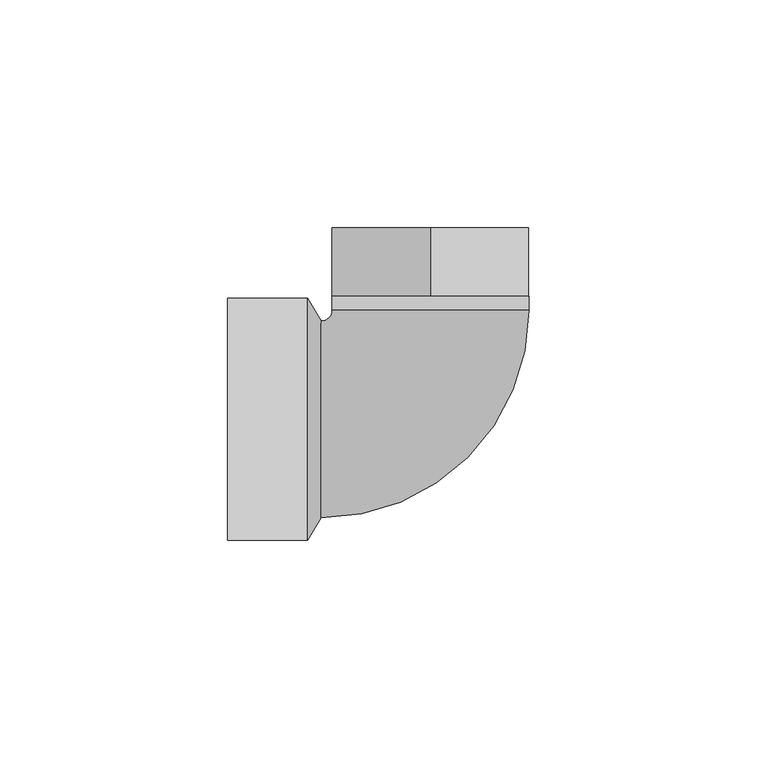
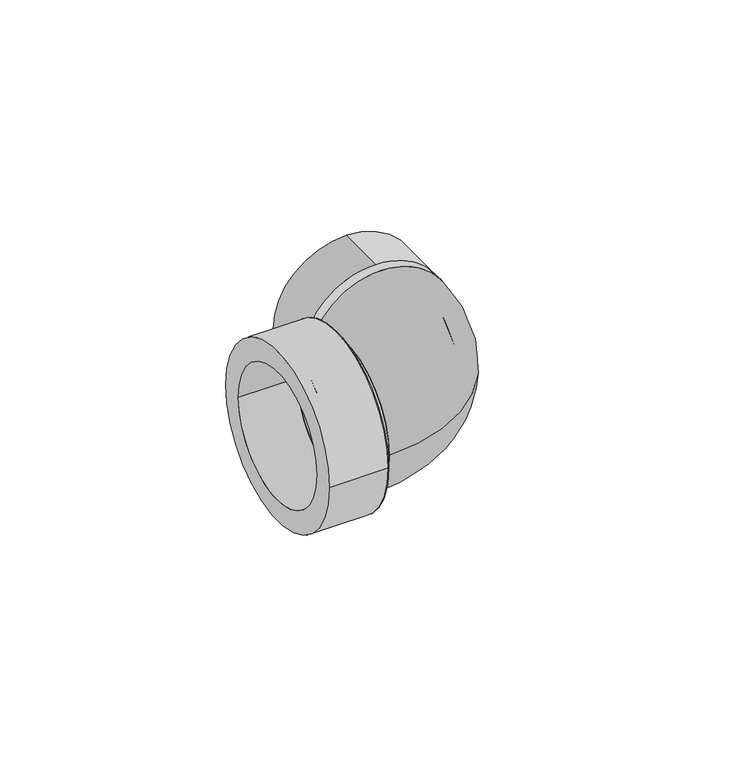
"""IFC4 building model written with IfcOpenShell, lengths in millimetres: pipe fitting geometry, 40_Угольник переходной 90 : Белый цвет."""

import ifcopenshell
import ifcopenshell.guid

model = None  # the IFC model being written
_history = None  # IfcOwnerHistory: only IFC2X3 demands one
_inside = {}  # id of a spatial element -> (the spatial element, [elements in it])
_under = {}  # id of a project, library or spatial element -> (it, [spatial elements below it])
_declared = {}  # id of a project -> (the project, [libraries it declares])
_typed = {}  # id of a type object -> (the type object, [elements of that type])
_made_of = {}  # id of a material, layer set ... -> (it, [elements and type objects made of it])


def new_model(schema):
    """Start an empty IFC model of exactly this schema.

    Asked for "IFC4X3", IfcOpenShell would pick the latest addendum, in which some entities
    have other attributes; the version numbers below select the first issue.
    IFC2X3 requires an IfcOwnerHistory on every rooted entity: one is made here for all.
    """
    global model, _history
    if schema == "IFC4X3":
        model = ifcopenshell.file(schema_version=(4, 3, 0, 0))
    else:
        model = ifcopenshell.file(schema=schema)
    _inside.clear()
    _under.clear()
    _declared.clear()
    _typed.clear()
    _made_of.clear()
    _history = None
    if model.schema == "IFC2X3":
        org = make("IfcOrganization", Name="unknown")
        user = make(
            "IfcPersonAndOrganization",
            ThePerson=make("IfcPerson", FamilyName="unknown"),
            TheOrganization=org,
        )
        app = make(
            "IfcApplication",
            ApplicationDeveloper=org,
            Version="unknown",
            ApplicationFullName="unknown",
            ApplicationIdentifier="unknown",
        )
        _history = make(
            "IfcOwnerHistory",
            OwningUser=user,
            OwningApplication=app,
            ChangeAction="ADDED",
            CreationDate=0,
        )
    return model


def make(cls, **values):
    """One entity of the class cls with the attributes given. An attribute that is None is left unset."""
    return model.create_entity(
        cls, **{name: value for name, value in values.items() if value is not None}
    )


def rooted(cls, **values):
    """An entity with a GlobalId (a new one), such as an element, a storey or a relation."""
    return make(cls, GlobalId=ifcopenshell.guid.new(), OwnerHistory=_history, **values)


def si_unit(unit_type, name, prefix=None):
    """IfcSIUnit, for example si_unit("LENGTHUNIT", "METRE", prefix="MILLI")."""
    return make("IfcSIUnit", UnitType=unit_type, Prefix=prefix, Name=name)


def assignment(units):
    """IfcUnitAssignment: the units of a project."""
    return None if units is None else make("IfcUnitAssignment", Units=units)


def point(xyz):
    """IfcCartesianPoint."""
    return None if xyz is None else make("IfcCartesianPoint", Coordinates=xyz)


def direction(xyz):
    """IfcDirection."""
    return None if xyz is None else make("IfcDirection", DirectionRatios=xyz)


def frame(location, z_axis=None, x_axis=None):
    """IfcAxis2Placement3D, a coordinate frame: its origin and axes. An axis left out is left unset."""
    return make(
        "IfcAxis2Placement3D",
        Location=point(location),
        Axis=direction(z_axis),
        RefDirection=direction(x_axis),
    )


def frame_2d(location, x_axis=None):
    """IfcAxis2Placement2D, a coordinate frame in the plane: its origin and x axis."""
    return make(
        "IfcAxis2Placement2D", Location=point(location), RefDirection=direction(x_axis)
    )


def origin():
    """The frame at (0, 0, 0) with its axes left unset."""
    return frame((0.0, 0.0, 0.0))


def place(relative_to, where):
    """IfcLocalPlacement: puts the frame where relative to a parent placement (None: the world)."""
    return make(
        "IfcLocalPlacement", PlacementRelTo=relative_to, RelativePlacement=where
    )


def context(
    kind, dimensions, precision=None, world=None, true_north=None, identifier=None
):
    """IfcGeometricRepresentationContext, for example the 3D "Model" context."""
    return make(
        "IfcGeometricRepresentationContext",
        ContextIdentifier=identifier,
        ContextType=kind,
        CoordinateSpaceDimension=dimensions,
        Precision=precision,
        WorldCoordinateSystem=world,
        TrueNorth=true_north,
    )


def project(units=None, contexts=None):
    """IfcProject with its units and contexts."""
    return rooted(
        "IfcProject",
        Name="project",
        RepresentationContexts=contexts,
        UnitsInContext=assignment(units),
    )


def spatial(cls, under=None, at=None, **own):
    """A site, building, storey or space (cls), placed at a placement, below another one or the project."""
    s = rooted(cls, ObjectPlacement=at, **own)
    if under is not None:
        _under.setdefault(under.id(), (under, []))[1].append(s)
    return s


def polyline(points):
    """IfcPolyline through the points."""
    return make("IfcPolyline", Points=[point(p) for p in points])


def circle_curve(where, radius):
    """IfcCircle in the frame where."""
    return make("IfcCircle", Position=where, Radius=radius)


def ellipse_curve(where, semi_axis1, semi_axis2):
    """IfcEllipse in the frame where."""
    return make(
        "IfcEllipse", Position=where, SemiAxis1=semi_axis1, SemiAxis2=semi_axis2
    )


def trimmed(basis, trim1, trim2, sense, master):
    """IfcTrimmedCurve: the piece of a basis curve between two trims."""
    return make(
        "IfcTrimmedCurve",
        BasisCurve=basis,
        Trim1=trim1,
        Trim2=trim2,
        SenseAgreement=sense,
        MasterRepresentation=master,
    )


def segment(curve, same_sense, transition):
    """IfcCompositeCurveSegment."""
    return make(
        "IfcCompositeCurveSegment",
        Transition=transition,
        SameSense=same_sense,
        ParentCurve=curve,
    )


def composite_curve(segments, self_intersect=None):
    """IfcCompositeCurve: segments joined end to end."""
    return make("IfcCompositeCurve", Segments=segments, SelfIntersect=self_intersect)


def outline(outer, holes=None, kind="AREA"):
    """IfcArbitraryClosedProfileDef: a profile drawn as a closed curve; with holes, ...WithVoids."""
    if holes is None:
        return make("IfcArbitraryClosedProfileDef", ProfileType=kind, OuterCurve=outer)
    return make(
        "IfcArbitraryProfileDefWithVoids",
        ProfileType=kind,
        OuterCurve=outer,
        InnerCurves=holes,
    )


def extrude(swept, where, along, depth):
    """IfcExtrudedAreaSolid: the profile swept, set in the frame where, extruded along a direction by depth."""
    return make(
        "IfcExtrudedAreaSolid",
        SweptArea=swept,
        Position=where,
        ExtrudedDirection=direction(along),
        Depth=depth,
    )


def shape(context_of_items, identifier, shape_type, items):
    """IfcShapeRepresentation: the items that make up one representation, for example the "Body"."""
    return make(
        "IfcShapeRepresentation",
        ContextOfItems=context_of_items,
        RepresentationIdentifier=identifier,
        RepresentationType=shape_type,
        Items=items,
    )


def source(mapping_origin, context_of_items, identifier, shape_type, items):
    """IfcRepresentationMap: a shape defined once, which mapped items show again and again."""
    return make(
        "IfcRepresentationMap",
        MappingOrigin=mapping_origin,
        MappedRepresentation=shape(context_of_items, identifier, shape_type, items),
    )


def transform(
    local_origin,
    x_axis=None,
    y_axis=None,
    z_axis=None,
    scale=None,
    scale2=None,
    scale3=None,
    uniform=True,
):
    """IfcCartesianTransformationOperator3D, or its non-uniform kind. x_axis, y_axis, z_axis: its Axis1, 2, 3."""
    if uniform:
        return make(
            "IfcCartesianTransformationOperator3D",
            Axis1=direction(x_axis),
            Axis2=direction(y_axis),
            LocalOrigin=point(local_origin),
            Scale=scale,
            Axis3=direction(z_axis),
        )
    return make(
        "IfcCartesianTransformationOperator3DnonUniform",
        Axis1=direction(x_axis),
        Axis2=direction(y_axis),
        LocalOrigin=point(local_origin),
        Scale=scale,
        Axis3=direction(z_axis),
        Scale2=scale2,
        Scale3=scale3,
    )


def mapped(mapping_source, mapping_target):
    """IfcMappedItem: shows the shape of a source again, moved by a transform."""
    return make(
        "IfcMappedItem", MappingSource=mapping_source, MappingTarget=mapping_target
    )


def made_of(thing, what):
    """Note that an element or type object is made of a material, layer set ...; save() writes the relation."""
    if what is not None:
        _made_of.setdefault(what.id(), (what, []))[1].append(thing)
    return thing


def element(
    cls,
    number,
    at=None,
    inside=None,
    cuts=None,
    type_object=None,
    material=None,
    context=None,
    identifier="Body",
    shape_type=None,
    held_by="IfcProductDefinitionShape",
    body=None,
    shapes=None,
    **own,
):
    """One element of the class cls, such as IfcWall. Its Tag is "e" and its number.

    at: its placement. inside: the storey or other place that contains it. cuts: it is an
    opening in that element (IfcRelVoidsElement). A single representation is given by context,
    identifier, shape_type and body (its items); several are given by shapes. held_by: the class
    of the entity that holds the representations. save() writes the other relations.
    """
    e = rooted(cls, Tag="e%d" % number, ObjectPlacement=at, **own)
    if body is not None:
        shapes = [shape(context, identifier, shape_type, body)]
    if shapes is not None:
        e.Representation = make(held_by, Representations=shapes)
    if inside is not None:
        _inside.setdefault(inside.id(), (inside, []))[1].append(e)
    if cuts is not None:
        rooted(
            "IfcRelVoidsElement", RelatingBuildingElement=cuts, RelatedOpeningElement=e
        )
    if type_object is not None:
        _typed.setdefault(type_object.id(), (type_object, []))[1].append(e)
    return made_of(e, material)


def aggregate(whole, parts):
    """IfcRelAggregates: a whole, such as a stair, and the parts it consists of."""
    return rooted("IfcRelAggregates", RelatingObject=whole, RelatedObjects=parts)


def save(model, path):
    """Write the relations noted so far, then the file.

    IfcRelAggregates (storeys below a building ...), IfcRelContainedInSpatialStructure (elements
    in a storey), IfcRelDefinesByType, IfcRelAssociatesMaterial and IfcRelDeclares: one each for
    every whole, place, type object, material and project.
    """
    for whole, parts in _under.values():
        aggregate(whole, parts)
    for where, things in _inside.values():
        rooted(
            "IfcRelContainedInSpatialStructure",
            RelatedElements=things,
            RelatingStructure=where,
        )
    for kind, things in _typed.values():
        rooted("IfcRelDefinesByType", RelatedObjects=things, RelatingType=kind)
    for what, things in _made_of.values():
        rooted("IfcRelAssociatesMaterial", RelatedObjects=things, RelatingMaterial=what)
    for by, libraries in _declared.values():
        rooted("IfcRelDeclares", RelatingContext=by, RelatedDefinitions=libraries)
    model.write(path)


def plane_surface(at):
    """IfcPlane: the flat surface through the origin of the frame at, square to its z axis."""
    return make("IfcPlane", Position=at)


def revolved_surface(curve, axis_point, axis_direction):
    """IfcSurfaceOfRevolution: the curve turned about the line through axis_point along axis_direction."""
    return make(
        "IfcSurfaceOfRevolution",
        SweptCurve=make("IfcArbitraryOpenProfileDef", ProfileType="CURVE", Curve=curve),
        AxisPosition=make("IfcAxis1Placement", Location=point(axis_point), Axis=direction(axis_direction)),
    )


def advanced_brep(points, edges, surfaces, faces):
    """IfcAdvancedBrep: a solid bounded by faces that lie on surfaces and meet in shared edges.

    An edge is (start, end): straight between two places in points (the first is 0);
    or (start, end, curve); or (start, end, curve, False) where it runs against its curve.
    A face is (place in surfaces, loops), or (place, loops, False) where it looks against
    its surface's normal. A loop lists edges by number (the first is 1), with a minus sign
    where the edge is run from its end to its start. The first loop is the outer one.
    """
    corners = [point(p) for p in points]
    vertices = [make("IfcVertexPoint", VertexGeometry=c) for c in corners]
    made = []
    for start, end, *more in edges:
        made.append(
            make(
                "IfcEdgeCurve",
                EdgeStart=vertices[start],
                EdgeEnd=vertices[end],
                EdgeGeometry=more[0] if more else make("IfcPolyline", Points=[corners[start], corners[end]]),
                SameSense=more[1] if len(more) > 1 else True,
            )
        )
    hull = []
    for where, loops, *sense in faces:
        bounds = []
        for j, loop in enumerate(loops):
            ring = [make("IfcOrientedEdge", EdgeElement=made[abs(k) - 1], Orientation=k > 0) for k in loop]
            bounds.append(
                make(
                    "IfcFaceOuterBound" if j == 0 else "IfcFaceBound",
                    Bound=make("IfcEdgeLoop", EdgeList=ring),
                    Orientation=True,
                )
            )
        hull.append(make("IfcAdvancedFace", Bounds=bounds, FaceSurface=surfaces[where], SameSense=sense[0] if sense else True))
    return make("IfcAdvancedBrep", Outer=make("IfcClosedShell", CfsFaces=hull))


def pipe_fitting_425d0a09(model_context):
    return source(origin(), model_context, "Body", "SolidModel", [
        advanced_brep(
        [(-17.95, 24.0, 0.0), (25.25, 24.0, 0.0), (-12.35, 24.0, 0.0), (19.65, 24.0, 0.0), (-20.35, 21.6, 0.0), (-20.35, -21.6, 0.0), (-20.35, 16.0, 0.0), (-20.35, -16.0, 0.0)],
        [
            (0, 1, circle_curve(frame((3.65, 24.0, 0.0), z_axis=(0.0, 1.0, 0.0), x_axis=(1.0, 0.0, 0.0)), 21.6)),
            (1, 0, circle_curve(frame((3.65, 24.0, 0.0), z_axis=(0.0, 1.0, 0.0), x_axis=(1.0, 0.0, 0.0)), 21.6)),
            (2, 3, circle_curve(frame((3.65, 24.0, 0.0), z_axis=(0.0, -1.0, 0.0), x_axis=(1.0, 0.0, 0.0)), 16.0)),
            (3, 2, circle_curve(frame((3.65, 24.0, 0.0), z_axis=(0.0, -1.0, 0.0), x_axis=(1.0, 0.0, 0.0)), 16.0)),
            (4, 5, circle_curve(frame((-20.35, 0.0, 0.0), z_axis=(-1.0, 0.0, 0.0), x_axis=(0.0, -1.0, 0.0)), 21.6)),
            (5, 4, circle_curve(frame((-20.35, 0.0, 0.0), z_axis=(-1.0, 0.0, 0.0), x_axis=(0.0, -1.0, 0.0)), 21.6)),
            (6, 7, circle_curve(frame((-20.35, 0.0, 0.0), z_axis=(1.0, 0.0, 0.0), x_axis=(0.0, -1.0, 0.0)), 16.0)),
            (7, 6, circle_curve(frame((-20.35, 0.0, 0.0), z_axis=(1.0, 0.0, 0.0), x_axis=(0.0, -1.0, 0.0)), 16.0)),
            (5, 1, circle_curve(frame((-20.35, 24.0, 0.0), z_axis=(0.0, 0.0, 1.0), x_axis=(1.0, 0.0, 0.0)), 45.6)),
            (0, 4, circle_curve(frame((-20.35, 24.0, 0.0), z_axis=(0.0, 0.0, -1.0), x_axis=(1.0, 0.0, 0.0)), 2.4)),
            (7, 3, circle_curve(frame((-20.35, 24.0, 0.0), z_axis=(0.0, 0.0, 1.0), x_axis=(1.0, 0.0, 0.0)), 40.0)),
            (2, 6, circle_curve(frame((-20.35, 24.0, 0.0), z_axis=(0.0, 0.0, -1.0), x_axis=(1.0, 0.0, 0.0)), 8.0)),
        ],
        [
            plane_surface(frame((3.65, 24.0, 0.0), z_axis=(0.0, 1.0, 0.0), x_axis=(0.0, 0.0, 1.0))),
            plane_surface(frame((-20.35, 0.0, 0.0), z_axis=(-1.0, 0.0, 0.0), x_axis=(0.0, 0.0, 1.0))),
            revolved_surface(trimmed(ellipse_curve(frame((3.65, 24.0, 0.0), z_axis=(0.0, 1.0, 0.0), x_axis=(1.0, 0.0, 0.0)), 21.6, 21.6), [point((-17.95, 24.0, 0.0))], [point((25.25, 24.0, 0.0))], True, "CARTESIAN"), (-20.35, 24.0, 0.0), (0.0, 0.0, -1.0)),
            revolved_surface(trimmed(ellipse_curve(frame((3.65, 24.0, 0.0), z_axis=(0.0, 1.0, 0.0), x_axis=(1.0, 0.0, 0.0)), 21.6, 21.6), [point((25.25, 24.0, 0.0))], [point((-17.95, 24.0, 0.0))], True, "CARTESIAN"), (-20.35, 24.0, 0.0), (0.0, 0.0, -1.0)),
            revolved_surface(trimmed(ellipse_curve(frame((3.65, 24.0, 0.0), z_axis=(0.0, -1.0, 0.0), x_axis=(1.0, 0.0, 0.0)), 16.0, 16.0), [point((-12.35, 24.0, 0.0))], [point((19.65, 24.0, 0.0))], True, "CARTESIAN"), (-20.35, 24.0, 0.0), (0.0, 0.0, -1.0)),
            revolved_surface(trimmed(ellipse_curve(frame((3.65, 24.0, 0.0), z_axis=(0.0, -1.0, 0.0), x_axis=(1.0, 0.0, 0.0)), 16.0, 16.0), [point((19.65, 24.0, 0.0))], [point((-12.35, 24.0, 0.0))], True, "CARTESIAN"), (-20.35, 24.0, 0.0), (0.0, 0.0, -1.0)),
        ],
        [
            (0, [[1, 2], [3, 4]]),
            (1, [[5, 6], [7, 8]]),
            (2, [[9, -1, 10, -6]]),
            (3, [[-10, -2, -9, -5]]),
            (4, [[11, -3, 12, -8]]),
            (5, [[-12, -4, -11, -7]]),
        ],
    ),
        advanced_brep(
        [(-20.35, -21.55, 0.0), (-20.35, 21.65, 0.0), (-20.35, 16.05, 0.0), (-20.35, -15.95, 0.0), (-23.35, -26.45, 0.0), (-23.35, 26.55, 0.0), (-23.35, -19.95, 0.0), (-23.35, 20.05, 0.0)],
        [
            (0, 1, circle_curve(frame((-20.35, 0.05, 0.0), z_axis=(1.0, 0.0, 0.0), x_axis=(0.0, -1.0, 0.0)), 21.6)),
            (1, 0, circle_curve(frame((-20.35, 0.05, 0.0), z_axis=(1.0, 0.0, 0.0), x_axis=(0.0, 1.0, 0.0)), 21.6)),
            (2, 3, circle_curve(frame((-20.35, 0.05, 0.0), z_axis=(-1.0, 0.0, -1.2355450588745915e-12), x_axis=(0.0, -1.0, 0.0)), 16.0)),
            (3, 2, circle_curve(frame((-20.35, 0.05, 0.0), z_axis=(-1.0, 0.0, -1.2355450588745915e-12), x_axis=(0.0, 1.0, 0.0)), 16.0)),
            (4, 5, circle_curve(frame((-23.35, 0.05, 0.0), z_axis=(-1.0, 0.0, 0.0), x_axis=(0.0, 1.0, 0.0)), 26.5)),
            (5, 4, circle_curve(frame((-23.35, 0.05, 0.0), z_axis=(-1.0, 0.0, 0.0), x_axis=(0.0, -1.0, 0.0)), 26.5)),
            (6, 7, circle_curve(frame((-23.35, 0.05, 0.0), z_axis=(1.0, 0.0, 1.2355450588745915e-12), x_axis=(0.0, -1.0, 0.0)), 20.0)),
            (7, 6, circle_curve(frame((-23.35, 0.05, 0.0), z_axis=(1.0, 0.0, 1.2355450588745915e-12), x_axis=(0.0, 1.0, 0.0)), 20.0)),
            (0, 4),
            (5, 1),
            (6, 3),
            (2, 7),
        ],
        [
            plane_surface(frame((-20.35, 0.05, 0.0), z_axis=(1.0, 0.0, 0.0), x_axis=(0.0, 0.0, -1.0))),
            plane_surface(frame((-23.35, 0.05, 0.0), z_axis=(-1.0, 0.0, 0.0), x_axis=(0.0, 0.0, -1.0))),
            revolved_surface(polyline([(-20.35, -21.550000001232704, 0.0), (-23.35, -26.45, 0.0)]), (-7.1255102, 0.05, 0.0), (-1.0, 0.0, 0.0)),
            revolved_surface(polyline([(-20.35, 21.650000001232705, 0.0), (-23.35, 26.55, 0.0)]), (-7.1255102, 0.05, 0.0), (-1.0, 0.0, 0.0)),
            revolved_surface(polyline([(-23.35, -19.95, 0.0), (-20.35, -15.95, 0.0)]), (-8.35, 0.05, 0.0), (-1.0, 0.0, -1.2355450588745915e-12)),
        ],
        [
            (0, [[1, 2], [3, 4]]),
            (1, [[5, 6], [7, 8]]),
            (2, [[-1, 9, -6, 10]]),
            (3, [[-2, -10, -5, -9]]),
            (4, [[11, -3, 12, -7]]),
            (4, [[-11, -8, -12, -4]]),
        ],
    ),
        extrude(outline(composite_curve([segment(trimmed(circle_curve(frame_2d((0.0, 3.65)), 21.6), [point((0.0, -17.95))], [point((0.0, 25.25))], False, "CARTESIAN"), True, "CONTINUOUS"), segment(trimmed(circle_curve(frame_2d((0.0, 3.65)), 21.6), [point((0.0, 25.25))], [point((0.0, -17.95))], False, "CARTESIAN"), True, "CONTINUOUS")], self_intersect=False), holes=[composite_curve([segment(trimmed(circle_curve(frame_2d((0.0, 3.65)), 16.0), [point((0.0, 19.65))], [point((0.0, -12.35))], True, "CARTESIAN"), True, "CONTINUOUS"), segment(trimmed(circle_curve(frame_2d((0.0, 3.65)), 16.0), [point((0.0, -12.35))], [point((0.0, 19.65))], True, "CARTESIAN"), True, "CONTINUOUS")], self_intersect=False)]), frame((0.0, 24.0, 0.0), z_axis=(0.0, 1.0, 0.0), x_axis=(0.0, 0.0, 1.0)), (0.0, 0.0, 1.0), 3.0),
        extrude(outline(composite_curve([segment(trimmed(circle_curve(frame_2d((0.0, 3.65)), 21.6), [point((-21.6, 3.65))], [point((21.6, 3.65))], False, "CARTESIAN"), True, "CONTINUOUS"), segment(trimmed(circle_curve(frame_2d((0.0, 3.65)), 21.6), [point((21.6, 3.65))], [point((-21.6, 3.65))], False, "CARTESIAN"), True, "CONTINUOUS")], self_intersect=False), holes=[composite_curve([segment(trimmed(circle_curve(frame_2d((0.0, 3.65)), 16.0), [point((-16.0, 3.65))], [point((16.0, 3.65))], True, "CARTESIAN"), True, "CONTINUOUS"), segment(trimmed(circle_curve(frame_2d((0.0, 3.65)), 16.0), [point((16.0, 3.65))], [point((-16.0, 3.65))], True, "CARTESIAN"), True, "CONTINUOUS")], self_intersect=False)]), frame((0.0, 27.0, 0.0), z_axis=(0.0, 1.0, 0.0), x_axis=(0.0, 0.0, 1.0)), (0.0, 0.0, 1.0), 15.0),
        extrude(outline(composite_curve([segment(trimmed(circle_curve(frame_2d((0.05, 0.0)), 26.5), [point((-26.45, 0.0))], [point((26.55, 0.0))], False, "CARTESIAN"), True, "CONTINUOUS"), segment(trimmed(circle_curve(frame_2d((0.05, 0.0)), 26.5), [point((26.55, 0.0))], [point((-26.45, 0.0))], False, "CARTESIAN"), True, "CONTINUOUS")], self_intersect=False), holes=[composite_curve([segment(trimmed(circle_curve(frame_2d((0.05, 0.0)), 20.0), [point((-19.95, 0.0))], [point((20.05, 0.0))], True, "CARTESIAN"), True, "CONTINUOUS"), segment(trimmed(circle_curve(frame_2d((0.05, 0.0)), 20.0), [point((20.05, 0.0))], [point((-19.95, 0.0))], True, "CARTESIAN"), True, "CONTINUOUS")], self_intersect=False)]), frame((-40.85, 0.0, 0.0), z_axis=(1.0, 0.0, 0.0), x_axis=(0.0, 1.0, 0.0)), (0.0, 0.0, 1.0), 17.5),
    ])


if __name__ == "__main__":
    model = new_model("IFC4")
    model_context = context("Model", 3, world=origin())
    ifc_project = project(units=[si_unit("LENGTHUNIT", "METRE", prefix="MILLI")], contexts=[model_context])
    site = spatial("IfcSite", under=ifc_project)
    building = spatial("IfcBuilding", under=site)
    placement = place(None, origin())
    pipe_fitting_shape = pipe_fitting_425d0a09(model_context)
    element("IfcPipeFitting", 1, ObjectType="40_Угольник переходной 90 : Белый цвет", at=placement, inside=building, context=model_context, shape_type="MappedRepresentation", body=[
        mapped(pipe_fitting_shape, transform((0.0, 0.0, 0.0), x_axis=(1.0, 0.0, 0.0), y_axis=(0.0, 1.0, 0.0), z_axis=(0.0, 0.0, 1.0))),
    ])
    save(model, "model.ifc")
